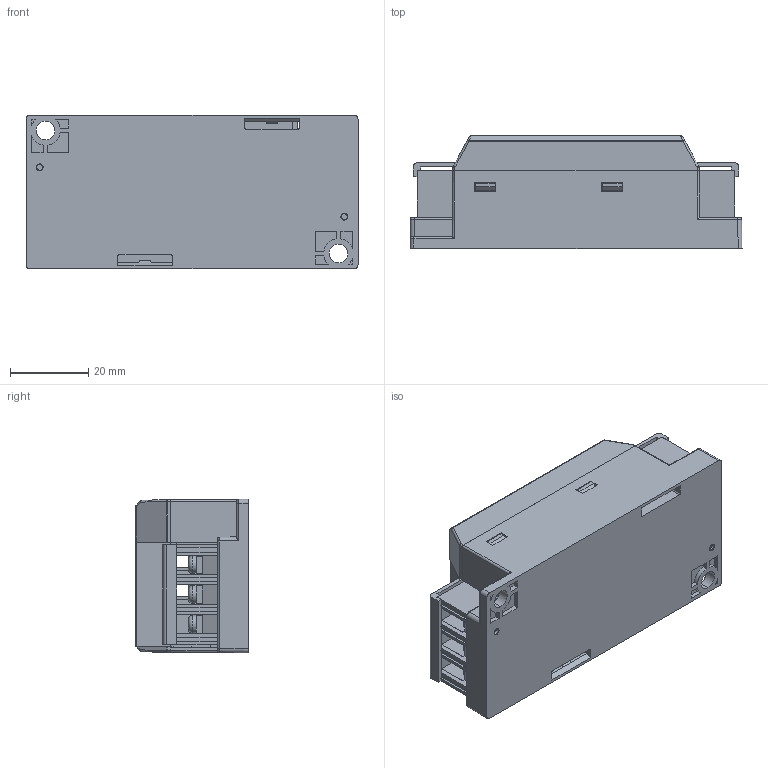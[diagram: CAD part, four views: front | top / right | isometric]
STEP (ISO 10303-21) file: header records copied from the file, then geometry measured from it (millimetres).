
FILE_DESCRIPTION((''),'2;1');
FILE_NAME('00_ASM_95_ASM_1_ASM','2022-11-08T',('pe213'),(''),'PRO/ENGINEER BY PARAMETRIC TECHNOLOGY CORPORATION, 2014000','PRO/ENGINEER BY PARAMETRIC TECHNOLOGY CORPORATION, 2014000','');
FILE_SCHEMA(('AUTOMOTIVE_DESIGN { 1 0 10303 214 1 1 1 1 }'));
Length unit declared in the file: millimetre
Products named in the file (8): PCB_27_1; ZLDZ-3P_15_1; BB_34_1; DZG-G_2_1; MANIFOLD_SOLID_BREP_58_6_1; ADMI103C73E6C1MI_ASM_1_ASM_1_ASM; ZUZHUANG220415_ASM_1_ASM_1_ASM; 00_ASM_95_ASM_1_ASM
Assembly tree (9 placements, depth 4):
  00_ASM_95_ASM_1_ASM
    PCB_27_1
    ZLDZ-3P_15_1  x2
    BB_34_1
    DZG-G_2_1  x2
    ZUZHUANG220415_ASM_1_ASM_1_ASM
      ADMI103C73E6C1MI_ASM_1_ASM_1_ASM
        MANIFOLD_SOLID_BREP_58_6_1
Bounding box: 85 x 28.9 x 39.35 mm (x, y, z)
Volume: 23477.2 mm3; surface area: 35463.6 mm2
Topology: 7 solids, 7 shells, 853 faces, 2378 edges, 1562 vertices
Faces by surface type: plane 670, cylinder 139, torus 20, bspline 20, sphere 4
Entity records: 27677 total; most frequent: CARTESIAN_POINT 5096, ORIENTED_EDGE 3620, DIRECTION 3170, PRESENTATION_STYLE_ASSIGNMENT 1820, STYLED_ITEM 1815, CURVE_STYLE 1810, EDGE_CURVE 1810, VECTOR 1436
